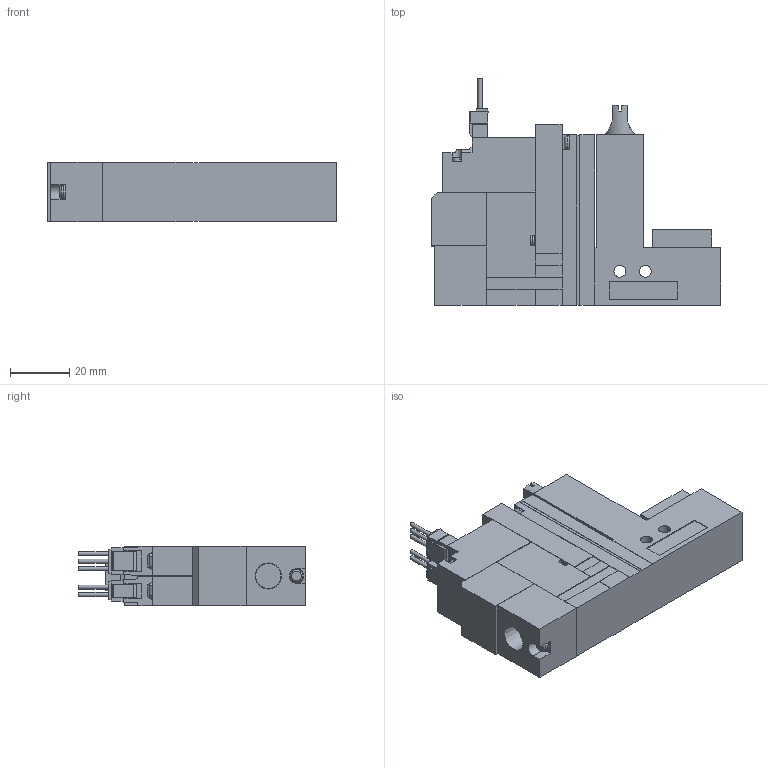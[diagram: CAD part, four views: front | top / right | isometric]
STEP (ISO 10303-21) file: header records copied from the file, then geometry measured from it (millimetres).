
FILE_DESCRIPTION(('STEP AP203'),'1');
FILE_NAME('ZLC5WLR.stp','2025-02-17T00:01:29',(' '),(' '),'Spatial InterOp 3D',' ',' ');
FILE_SCHEMA(('CONFIG_CONTROL_DESIGN'));
Length unit declared in the file: millimetre
Products named in the file (5): BMC22S※※※※ZLC5WLR; Solenoid valve W; Pressure sensor ZLC; Unit LC; Base SR10R
Assembly tree (4 placements, depth 2):
  BMC22S※※※※ZLC5WLR
    Solenoid valve W
    Pressure sensor ZLC
    Unit LC
    Base SR10R
Bounding box: 97.6 x 76.45 x 20 mm (x, y, z)
Volume: 89843.7 mm3; surface area: 23642.8 mm2
Topology: 4 solids, 4 shells, 366 faces, 983 edges, 646 vertices
Faces by surface type: plane 320, cylinder 35, cone 6, torus 5
Full cylindrical faces by diameter (mm): 1.4 x5, 2.5 x1, 3 x4, 3.5 x4, 3.6 x1, 4 x2, 4.134 x1, 6 x1
Entity records: 11435 total; most frequent: CARTESIAN_POINT 2101, ORIENTED_EDGE 1886, DIRECTION 1791, EDGE_CURVE 943, LINE 825, VECTOR 825, VERTEX_POINT 637, AXIS2_PLACEMENT_3D 483
